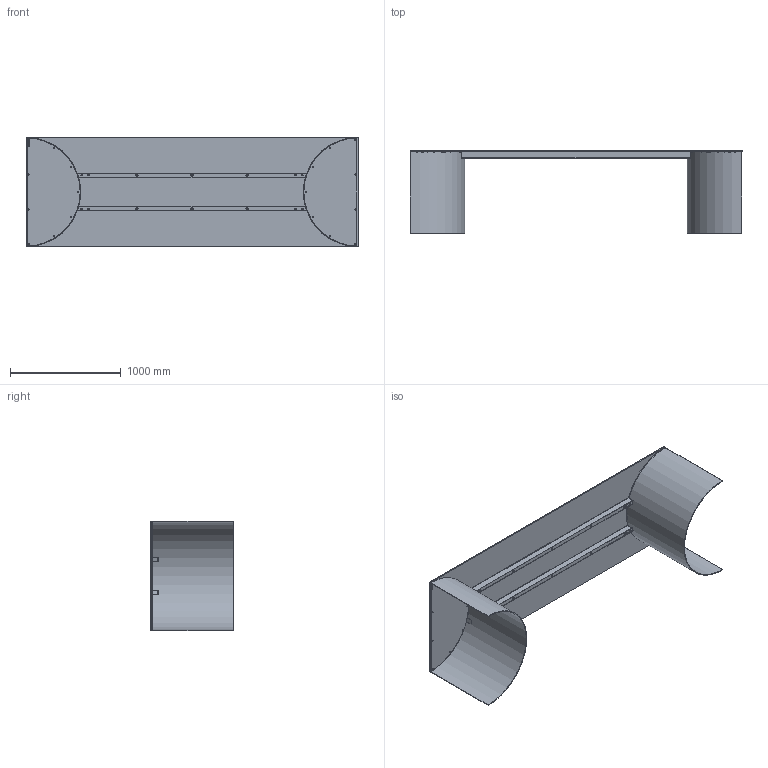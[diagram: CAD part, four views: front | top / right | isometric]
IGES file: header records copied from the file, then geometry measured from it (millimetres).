
Start section: SolidWorks IGES file using analytic representation for surfaces
Global section: file name: \\UTENTI\Dati Utenti\Tecnico\DC\2D - 3D per sito\3D\DeCastelli-3D-Plateaux of mirror 300.igs; native system: SolidWorks 2022; preprocessor: SolidWorks 2022; author: Silviad; date: 240711.172623; units: millimetre
Bounding box: 3000 x 750 x 990 mm (x, y, z)
Surface area: 12461896.6 mm2 (no closed solid volume)
Topology: 0 solids, 0 shells, 129 faces, 2802 edges, 2802 vertices
Faces by surface type: bspline 95, revolution 34
